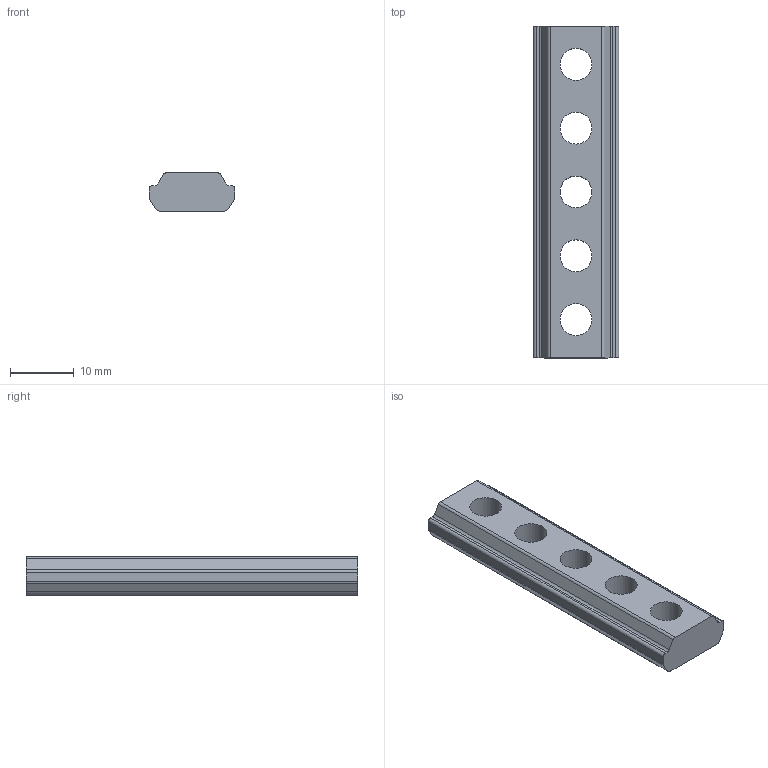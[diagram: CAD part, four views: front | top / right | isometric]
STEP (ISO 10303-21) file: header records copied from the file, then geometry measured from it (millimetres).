
FILE_DESCRIPTION(('STEP AP214'),'1');
FILE_NAME('NTM5-N.stp','2017-07-26T07:07:32',(' '),(' '),'Spatial InterOp 3D',' ',' ');
FILE_SCHEMA(('automotive_design'));
Length unit declared in the file: millimetre
Products named in the file (1): NTM5-N
Bounding box: 13.4 x 52 x 6 mm (x, y, z)
Volume: 3090.6 mm3; surface area: 2212.9 mm2
Topology: 1 solids, 1 shells, 27 faces, 75 edges, 50 vertices
Faces by surface type: cylinder 15, plane 12
Full cylindrical faces by diameter (mm): 5 x5
Entity records: 1106 total; most frequent: DIRECTION 156, CARTESIAN_POINT 148, ORIENTED_EDGE 140, EDGE_CURVE 70, AXIS2_PLACEMENT_3D 58, VERTEX_POINT 50, EDGE_LOOP 42, LINE 40
